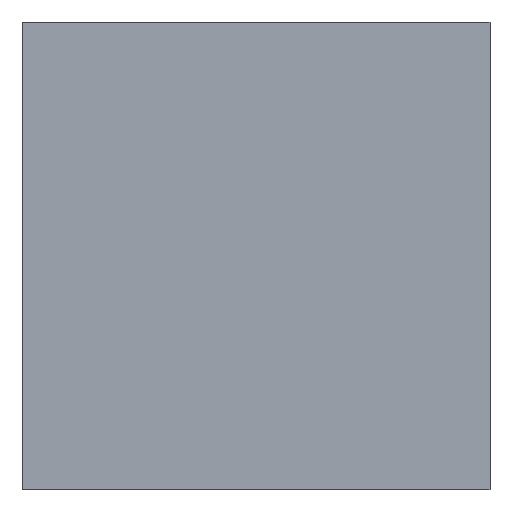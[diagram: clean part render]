
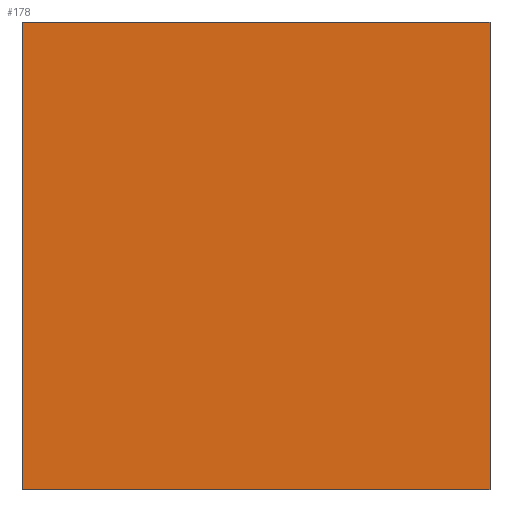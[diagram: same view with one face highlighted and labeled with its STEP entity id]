
A CAD part, left-side view. The second image highlights one B-rep face of the part: STEP entity #178.
In plain terms, the highlighted planar face has unit normal (-1, 0, 0).
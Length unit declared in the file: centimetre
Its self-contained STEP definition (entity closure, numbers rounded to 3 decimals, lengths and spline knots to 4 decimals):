
#1 = DIRECTION ( 'NONE',  ( 0., -1., 0. ) ) ;
#12 = DIRECTION ( 'NONE',  ( 0., 0., -1. ) ) ;
#21 = VERTEX_POINT ( 'NONE', #514 ) ;
#97 = CARTESIAN_POINT ( 'NONE',  ( 0., 0., 1000. ) ) ;
#129 = FACE_OUTER_BOUND ( 'NONE', #172, .T. ) ;
#135 = ORIENTED_EDGE ( 'NONE', *, *, #460, .T. ) ;
#159 = EDGE_CURVE ( 'NONE', #379, #21, #525, .T. ) ;
#172 = EDGE_LOOP ( 'NONE', ( #229, #207, #541, #135 ) ) ;
#178 = ADVANCED_FACE ( 'NONE', ( #129 ), #279, .F. ) ;
#190 = LINE ( 'NONE', #385, #464 ) ;
#207 = ORIENTED_EDGE ( 'NONE', *, *, #159, .F. ) ;
#229 = ORIENTED_EDGE ( 'NONE', *, *, #402, .T. ) ;
#234 = DIRECTION ( 'NONE',  ( 1., 0., 0. ) ) ;
#279 = PLANE ( 'NONE',  #557 ) ;
#288 = CARTESIAN_POINT ( 'NONE',  ( 0., 1000., 1000. ) ) ;
#298 = VECTOR ( 'NONE', #570, 100. ) ;
#325 = VECTOR ( 'NONE', #12, 100. ) ;
#326 = LINE ( 'NONE', #575, #298 ) ;
#343 = EDGE_CURVE ( 'NONE', #506, #379, #428, .T. ) ;
#344 = CARTESIAN_POINT ( 'NONE',  ( 0., 1000., 1000. ) ) ;
#348 = VECTOR ( 'NONE', #1, 100. ) ;
#379 = VERTEX_POINT ( 'NONE', #97 ) ;
#385 = CARTESIAN_POINT ( 'NONE',  ( 0., 1000., 0. ) ) ;
#391 = CARTESIAN_POINT ( 'NONE',  ( 0., 0., 1000. ) ) ;
#402 = EDGE_CURVE ( 'NONE', #404, #21, #190, .T. ) ;
#404 = VERTEX_POINT ( 'NONE', #513 ) ;
#423 = DIRECTION ( 'NONE',  ( 0., 0., -1. ) ) ;
#428 = LINE ( 'NONE', #288, #348 ) ;
#460 = EDGE_CURVE ( 'NONE', #506, #404, #326, .T. ) ;
#462 = CARTESIAN_POINT ( 'NONE',  ( 0., 1000., 1000. ) ) ;
#464 = VECTOR ( 'NONE', #467, 100. ) ;
#467 = DIRECTION ( 'NONE',  ( 0., -1., 0. ) ) ;
#506 = VERTEX_POINT ( 'NONE', #344 ) ;
#513 = CARTESIAN_POINT ( 'NONE',  ( 0., 1000., 0. ) ) ;
#514 = CARTESIAN_POINT ( 'NONE',  ( 0., 0., 0. ) ) ;
#525 = LINE ( 'NONE', #391, #325 ) ;
#541 = ORIENTED_EDGE ( 'NONE', *, *, #343, .F. ) ;
#557 = AXIS2_PLACEMENT_3D ( 'NONE', #462, #234, #423 ) ;
#570 = DIRECTION ( 'NONE',  ( 0., 0., -1. ) ) ;
#575 = CARTESIAN_POINT ( 'NONE',  ( 0., 1000., 1000. ) ) ;
